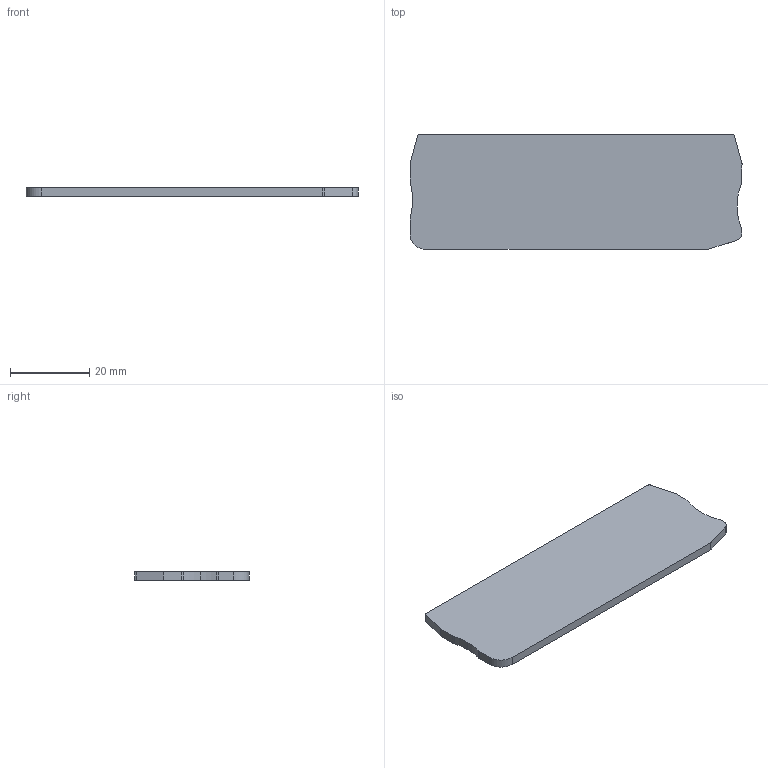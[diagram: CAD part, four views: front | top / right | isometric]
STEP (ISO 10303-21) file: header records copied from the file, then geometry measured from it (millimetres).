
FILE_DESCRIPTION(('SolidDesigner STEP Export'),'2;1');
FILE_NAME('3038590_d_st25_quattro_mt.stp','2004-02-03T10:48:44',(''),(''),'OneSpaceDesigner STEP processor Version: 9.0 (March 2001)for AP214(CD)(Solid Model)','CoCreate OneSpaceDesigner: 11.50A 18-Jul-2002(C) CoCreate Software GmbH','');
FILE_SCHEMA(('AUTOMOTIVE_DESIGN_CC2 {1 2 10303 214 -1 1 5 1}'));
Length unit declared in the file: millimetre
Products named in the file (2): d_st_25_quattro_mt
Assembly tree (1 placements, depth 2):
  d_st_25_quattro_mt
    d_st_25_quattro_mt
Bounding box: 84 x 29.05 x 2.2 mm (x, y, z)
Volume: 5271 mm3; surface area: 5272.5 mm2
Topology: 1 solids, 1 shells, 26 faces, 72 edges, 48 vertices
Faces by surface type: cylinder 15, plane 11
Entity records: 1069 total; most frequent: DIRECTION 146, ORIENTED_EDGE 144, CARTESIAN_POINT 142, EDGE_CURVE 72, AXIS2_PLACEMENT_3D 52, VERTEX_POINT 48, VECTOR 42, LINE 42
